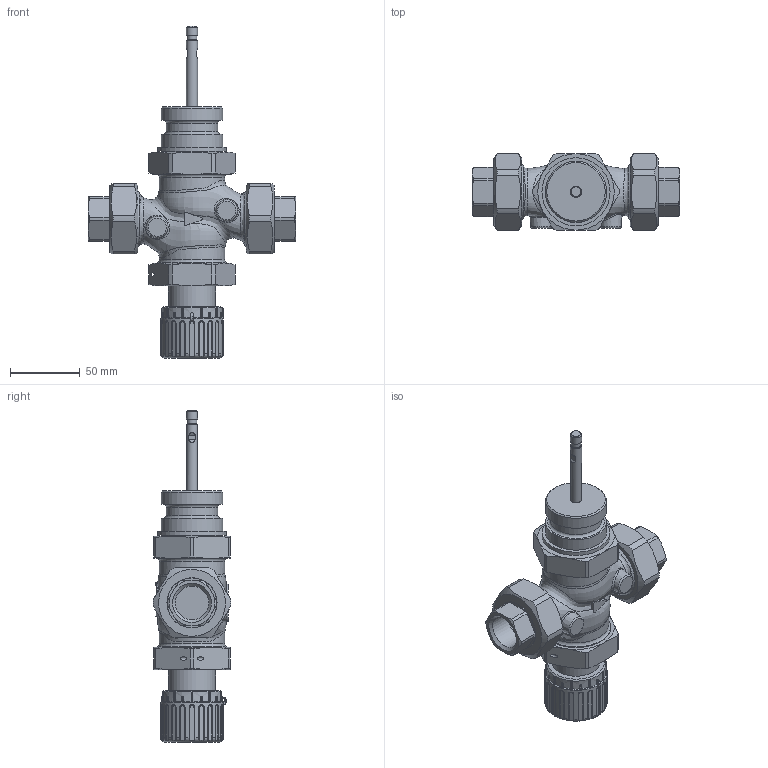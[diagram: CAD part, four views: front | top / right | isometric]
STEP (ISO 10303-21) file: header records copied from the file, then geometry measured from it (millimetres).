
FILE_DESCRIPTION(/* description */ (''),/* implementation_level */ '2;1');
FILE_NAME(/* name */ 'rv122_T_dn20_T.stp',/* time_stamp */ '2025-07-09T07:42:46+02:00',/* author */ ('Jan Novák'),/* organization */ ('LDM'),/* preprocessor_version */ 'ST-DEVELOPER v18.102',/* originating_system */ 'SIEMENS PLM Software NX2206.3001',/* authorisation */ '');
FILE_SCHEMA (('AUTOMOTIVE_DESIGN { 1 0 10303 214 3 1 1 1 }'));
Length unit declared in the file: millimetre
Products named in the file (1): rv_0767-770_rv122_T_dn20_objects
Bounding box: 149 x 55.98 x 238.6 mm (x, y, z)
Volume: 449613.6 mm3; surface area: 76479.1 mm2
Topology: 7 solids, 7 shells, 616 faces, 1530 edges, 950 vertices
Faces by surface type: cylinder 218, plane 183, bspline 103, cone 60, torus 52
Full cylindrical faces by diameter (mm): 2 x1, 2.5 x1, 7 x1, 8 x2, 24.117 x2, 27.5 x2, 28 x2, 33.8 x1, 35.8 x2, 36 x2, 37 x2, 38 x3, 38.8 x2, 38.952 x2, 41.91 x2, 43 x1, 44 x2, 47 x2, 49 x1
Entity records: 28786 total; most frequent: CARTESIAN_POINT 15402, ORIENTED_EDGE 2830, DIRECTION 2536, EDGE_CURVE 1415, AXIS2_PLACEMENT_3D 1053, VERTEX_POINT 908, EDGE_LOOP 727, ADVANCED_FACE 616
